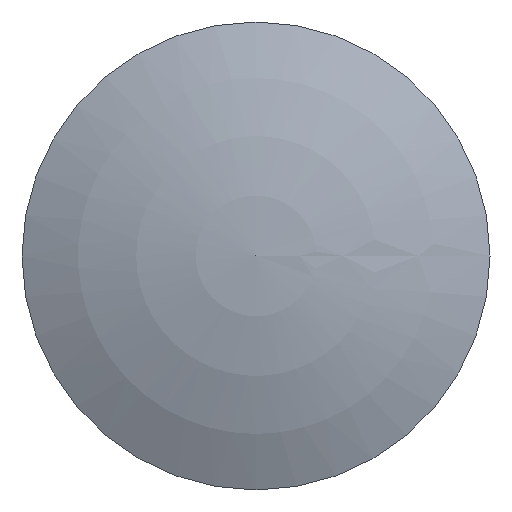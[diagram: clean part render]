
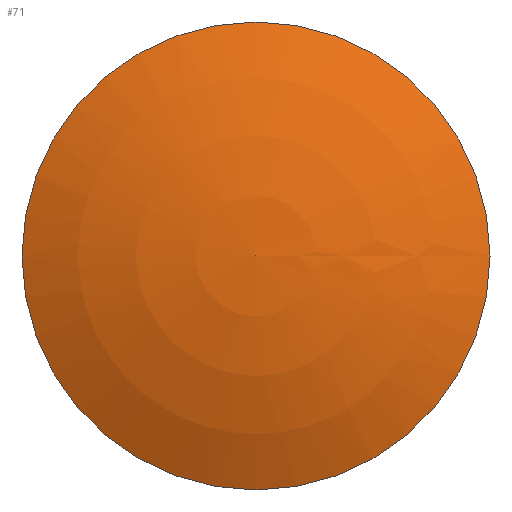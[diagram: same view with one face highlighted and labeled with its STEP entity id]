
A CAD part, top view. The second image highlights one B-rep face of the part: STEP entity #71.
In plain terms, the highlighted spherical face has radius 42.5 mm.
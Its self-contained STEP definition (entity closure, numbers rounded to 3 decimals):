
#15=SPHERICAL_SURFACE('',#84,42.5);
#29=FACE_OUTER_BOUND('',#39,.T.);
#39=EDGE_LOOP('',(#64));
#44=CIRCLE('',#83,18.);
#49=VERTEX_POINT('',#123);
#54=EDGE_CURVE('',#49,#49,#44,.T.);
#64=ORIENTED_EDGE('',*,*,#54,.T.);
#71=ADVANCED_FACE('',(#29),#15,.T.);
#83=AXIS2_PLACEMENT_3D('',#124,#105,#106);
#84=AXIS2_PLACEMENT_3D('',#125,#107,#108);
#105=DIRECTION('center_axis',(0.,0.,1.));
#106=DIRECTION('ref_axis',(1.,0.,0.));
#107=DIRECTION('center_axis',(0.,0.,1.));
#108=DIRECTION('ref_axis',(1.,0.,0.));
#123=CARTESIAN_POINT('',(18.,0.,0.));
#124=CARTESIAN_POINT('Origin',(0.,0.,0.));
#125=CARTESIAN_POINT('Origin',(0.,0.,-38.5));
